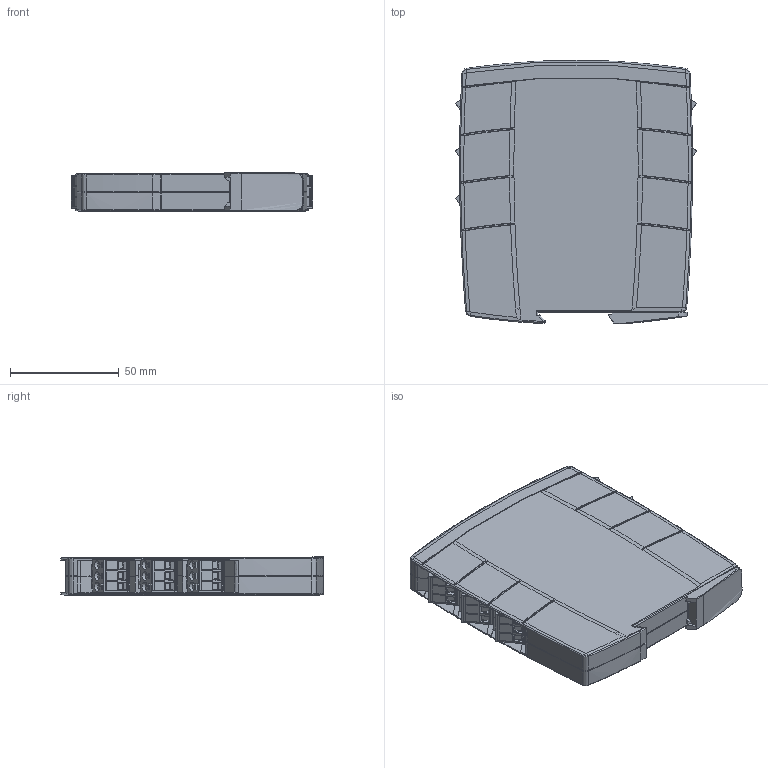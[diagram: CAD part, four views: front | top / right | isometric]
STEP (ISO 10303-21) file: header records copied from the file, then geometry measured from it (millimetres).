
FILE_DESCRIPTION(/* description */ (''),/* implementation_level */ '2;1');
FILE_NAME(/* name */ 'V:\AUTOCAD\_tegninger\Stepfiles - 3D\SafetyModules\SM-Modules\Assembly\TV\5-Terminals\SM-5-Terminals.stp',/* time_stamp */ '2019-10-01T13:16:53+02:00',/* author */ ('tvb'),/* organization */ (''),/* preprocessor_version */ 'ST-DEVELOPER v18',/* originating_system */ 'Autodesk Inventor 2020',/* authorisation */ '');
FILE_SCHEMA (('AUTOMOTIVE_DESIGN { 1 0 10303 214 3 1 1 }'));
Products named in the file (1): SM-5_Substitute_1
Bounding box: 110.79 x 121.02 x 17.65 mm (x, y, z)
Volume: 204006.5 mm3; surface area: 40845.6 mm2
Topology: 1 solids, 23 shells, 2530 faces, 6788 edges, 4465 vertices
Faces by surface type: plane 1992, cylinder 373, bspline 153, cone 6, sphere 4, torus 2
Full cylindrical faces by diameter (mm): 0.744 x5, 0.804 x5, 3.783 x15, 4 x15
Entity records: 83332 total; most frequent: CARTESIAN_POINT 17059, ORIENTED_EDGE 13570, DIRECTION 12685, EDGE_CURVE 6785, LINE 5519, VECTOR 5519, VERTEX_POINT 4466, AXIS2_PLACEMENT_3D 3583
